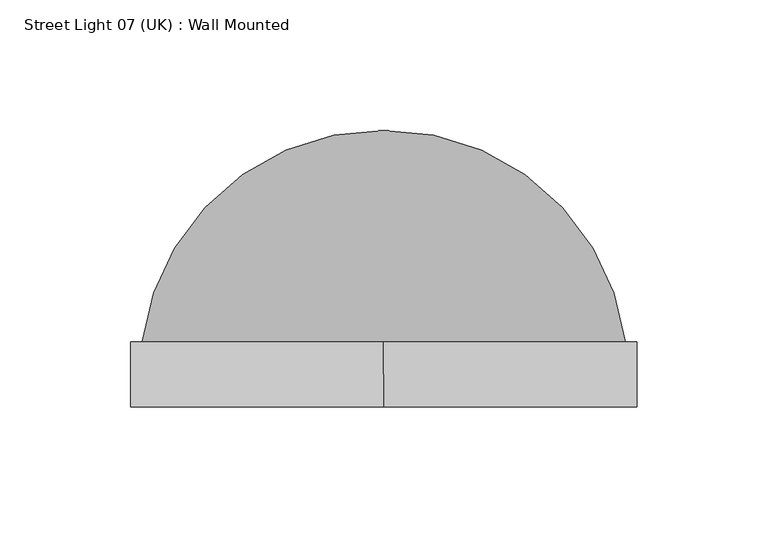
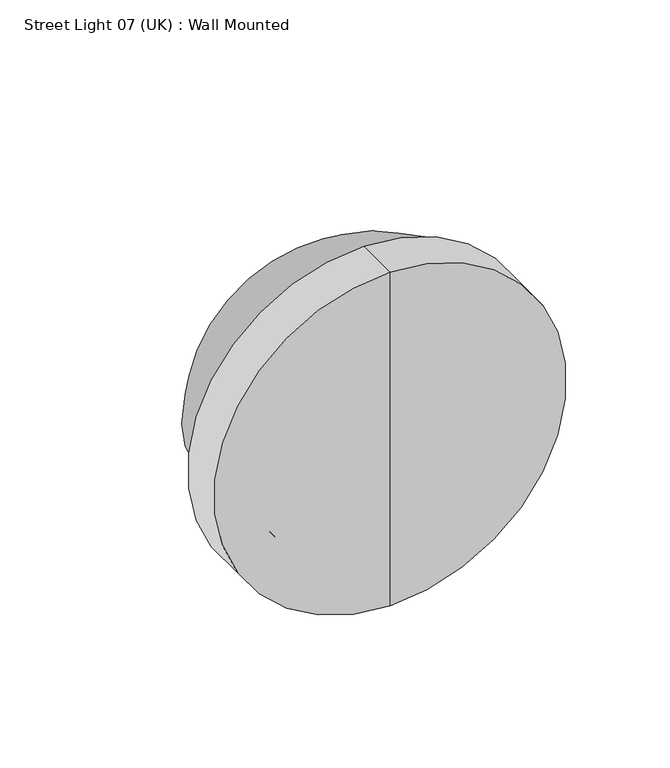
"""IFC4 building model written with IfcOpenShell, lengths in millimetres: light fixture geometry, Street Light 07 (UK) : Wall Mounted."""

from ifc_helpers import new_model, si_unit, point, frame, origin, place, context, project, spatial, polyline, circle_curve, ellipse_curve, trimmed, source, transform, mapped, element, save
from ifc_brep_helpers import plane_surface, cylinder_surface, revolved_surface, advanced_brep


def street_light_07_uk_wall_mounted_68d1d246(model_context):
    return source(origin(), model_context, "Body", "AdvancedBrep", [
        advanced_brep(
        [(211.608148, 125.0, 2278.6607917), (125.0, 200.1695134, 2278.6607917), (125.0, 205.9435974, 2278.6607917), (217.429795, 125.0, 2278.6607917), (38.391852, 125.0, 2278.6607917), (32.570205, 125.0, 2278.6607917)],
        [
            (0, 1, circle_curve(frame((125.7582507, 113.5646846, 2278.6607917), z_axis=(0.0, 0.0, 1.0), x_axis=(0.0, 1.0, 0.0)), 86.608148)),
            (1, 2),
            (2, 3, circle_curve(frame((125.7582507, 113.5646846, 2278.6607917), z_axis=(0.0, 0.0, -1.0), x_axis=(0.0, 1.0, 0.0)), 92.3820245)),
            (3, 0),
            (4, 5),
            (5, 2, circle_curve(frame((124.2417493, 113.5646846, 2278.6607917), z_axis=(0.0, 0.0, -1.0), x_axis=(0.0, 1.0, 0.0)), 92.3820245)),
            (1, 4, circle_curve(frame((124.2417493, 113.5646846, 2278.6607917), z_axis=(0.0, 0.0, 1.0), x_axis=(0.0, 1.0, 0.0)), 86.608148)),
            (0, 4, circle_curve(frame((125.0, 125.0, 2278.6607917), z_axis=(0.0, -1.0, 0.0), x_axis=(1.0, 0.0, 0.0)), 86.608148)),
            (5, 3, circle_curve(frame((125.0, 125.0, 2278.6607917), z_axis=(0.0, 1.0, 0.0), x_axis=(1.0, 0.0, 0.0)), 92.429795)),
        ],
        [
            plane_surface(frame((125.0, -115.0, 2278.6607917), z_axis=(0.0, 0.0, -1.0), x_axis=(1.0, 0.0, 0.0))),
            plane_surface(frame((125.0, -115.0, 2278.6607917), z_axis=(0.0, 0.0, -1.0), x_axis=(-1.0, 0.0, 0.0))),
            revolved_surface(trimmed(ellipse_curve(frame((125.7582507, 113.5646846, 2278.6607917), z_axis=(0.0, 0.0, -1.0), x_axis=(0.0, 1.0, 0.0)), 86.608148, 86.608148), [point((125.0, 200.1695134, 2278.6607917))], [point((211.608148, 125.0, 2278.6607917))], True, "CARTESIAN"), (125.0, -115.0, 2278.6607917), (0.0, 1.0, 0.0)),
            revolved_surface(trimmed(ellipse_curve(frame((125.7582507, 113.5646846, 2278.6607917), z_axis=(0.0, 0.0, 1.0), x_axis=(0.0, 1.0, 0.0)), 92.3820245, 92.3820245), [point((217.429795, 125.0, 2278.6607917))], [point((125.0, 205.9435974, 2278.6607917))], True, "CARTESIAN"), (125.0, -115.0, 2278.6607917), (0.0, 1.0, 0.0)),
            plane_surface(frame((125.0, 125.0, 2278.6607917), z_axis=(0.0, -1.0, 0.0), x_axis=(1.0, 0.0, 0.0))),
        ],
        [
            (0, [[1, 2, 3, 4]]),
            (1, [[5, 6, -2, 7]]),
            (2, [[-1, 8, -7]]),
            (3, [[9, -3, -6]]),
            (4, [[-8, -4, -9, -5]]),
        ],
    ),
        advanced_brep(
        [(125.0, 105.0, 2278.6607917), (125.0, 105.0, 2209.1171623), (125.0, 105.0, 2348.2044211), (125.0, 186.9119127, 2278.6607917)],
        [
            (0, 1),
            (1, 2, circle_curve(frame((125.0, 105.0, 2278.6607917), z_axis=(0.0, -1.0, 0.0), x_axis=(0.0, 0.0, -1.0)), 69.5436294)),
            (2, 0),
            (2, 1, circle_curve(frame((125.0, 105.0, 2278.6607917), z_axis=(0.0, -1.0, 0.0), x_axis=(0.0, 0.0, -1.0)), 69.5436294)),
            (1, 3, circle_curve(frame((125.0, 55.3155672, 2350.6496926), z_axis=(1.0, 0.0, 0.0), x_axis=(0.0, 1.0, 0.0)), 150.0)),
            (3, 2, circle_curve(frame((125.0, 55.3155672, 2206.6718908), z_axis=(1.0, 0.0, 0.0), x_axis=(0.0, 1.0, 0.0)), 150.0)),
        ],
        [
            plane_surface(frame((125.0, 105.0, 2278.6607917), z_axis=(0.0, -1.0, 0.0), x_axis=(0.0, 0.0, -1.0))),
            revolved_surface(trimmed(ellipse_curve(frame((125.0, 55.3155672, 2350.6496926), z_axis=(-1.0, 0.0, 0.0), x_axis=(0.0, 1.0, 0.0)), 150.0, 150.0), [point((125.0, 186.9119127, 2278.6607917))], [point((125.0, 105.0, 2209.1171623))], True, "CARTESIAN"), (125.0, -245.0, 2278.6607917), (0.0, -1.0, 0.0)),
        ],
        [
            (0, [[1, 2, 3]]),
            (0, [[-3, 4, -1]]),
            (1, [[-2, 5, 6]]),
            (1, [[-4, -6, -5]]),
        ],
    ),
        advanced_brep(
        [(125.0, 100.0, 2278.6607917), (125.0, 100.0, 2181.1607917), (125.0, 100.0, 2376.1607917), (125.0, 105.0, 2351.1607917), (125.0, 105.0, 2206.1607917), (125.0, 105.0, 2278.6607917), (125.0, 125.0, 2351.1607917), (125.0, 125.0, 2206.1607917), (125.0, 125.0, 2376.1607917), (125.0, 125.0, 2181.1607917)],
        [
            (0, 1),
            (1, 2, circle_curve(frame((125.0, 100.0, 2278.6607917), z_axis=(0.0, -1.0, 0.0), x_axis=(0.0, 0.0, -1.0)), 97.5)),
            (2, 0),
            (2, 1, circle_curve(frame((125.0, 100.0, 2278.6607917), z_axis=(0.0, -1.0, 0.0), x_axis=(0.0, 0.0, -1.0)), 97.5)),
            (3, 4, circle_curve(frame((125.0, 105.0, 2278.6607917), z_axis=(0.0, 1.0, 0.0), x_axis=(0.0, 0.0, -1.0)), 72.5)),
            (4, 5),
            (5, 3),
            (4, 3, circle_curve(frame((125.0, 105.0, 2278.6607917), z_axis=(0.0, 1.0, 0.0), x_axis=(0.0, 0.0, -1.0)), 72.5)),
            (6, 7, circle_curve(frame((125.0, 125.0, 2278.6607917), z_axis=(0.0, 1.0, 0.0), x_axis=(0.0, 0.0, -1.0)), 72.5)),
            (7, 4),
            (3, 6),
            (7, 6, circle_curve(frame((125.0, 125.0, 2278.6607917), z_axis=(0.0, 1.0, 0.0), x_axis=(0.0, 0.0, -1.0)), 72.5)),
            (8, 9, circle_curve(frame((125.0, 125.0, 2278.6607917), z_axis=(0.0, 1.0, 0.0), x_axis=(0.0, 0.0, -1.0)), 97.5)),
            (9, 7),
            (6, 8),
            (9, 8, circle_curve(frame((125.0, 125.0, 2278.6607917), z_axis=(0.0, 1.0, 0.0), x_axis=(0.0, 0.0, -1.0)), 97.5)),
            (1, 9),
            (8, 2),
        ],
        [
            plane_surface(frame((125.0, 100.0, 2278.6607917), z_axis=(0.0, -1.0, 0.0), x_axis=(0.0, 0.0, -1.0))),
            plane_surface(frame((125.0, 105.0, 2278.6607917), z_axis=(0.0, 1.0, 0.0), x_axis=(0.0, 0.0, -1.0))),
            revolved_surface(polyline([(125.0, 105.0, 2206.1607917), (125.0, 125.0, 2206.1607917)]), (125.0, 0.0, 2278.6607917), (0.0, -1.0, 0.0)),
            plane_surface(frame((125.0, 125.0, 2278.6607917), z_axis=(0.0, 1.0, 0.0), x_axis=(0.0, 0.0, -1.0))),
            cylinder_surface(frame((125.0, 0.0, 2278.6607917), z_axis=(0.0, -1.0, 0.0), x_axis=(0.0, 0.0, -1.0)), 97.5),
        ],
        [
            (0, [[1, 2, 3]]),
            (0, [[-3, 4, -1]]),
            (1, [[5, 6, 7]]),
            (1, [[8, -7, -6]]),
            (2, [[9, 10, -5, 11]]),
            (2, [[12, -11, -8, -10]]),
            (3, [[13, 14, -9, 15]]),
            (3, [[16, -15, -12, -14]]),
            (4, [[-2, 17, -13, 18]]),
            (4, [[-4, -18, -16, -17]]),
        ],
    ),
    ])


if __name__ == "__main__":
    model = new_model("IFC4")
    model_context = context("Model", 3, world=origin())
    ifc_project = project(units=[si_unit("LENGTHUNIT", "METRE", prefix="MILLI")], contexts=[model_context])
    site = spatial("IfcSite", under=ifc_project)
    building = spatial("IfcBuilding", under=site)
    placement = place(None, origin())
    street_light_07_uk_wall_mounted_shape = street_light_07_uk_wall_mounted_68d1d246(model_context)
    element("IfcLightFixture", 1, ObjectType="Street Light 07 (UK) : Wall Mounted", at=placement, inside=building, context=model_context, shape_type="MappedRepresentation", body=[
        mapped(street_light_07_uk_wall_mounted_shape, transform((0.0, 0.0, 0.0), x_axis=(1.0, 0.0, 0.0), y_axis=(0.0, 1.0, 0.0), z_axis=(0.0, 0.0, 1.0))),
    ])
    save(model, "model.ifc")
